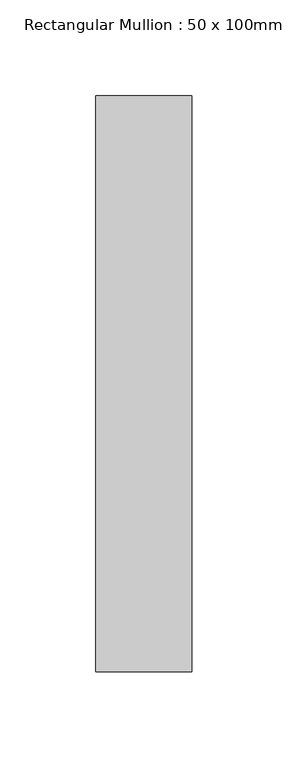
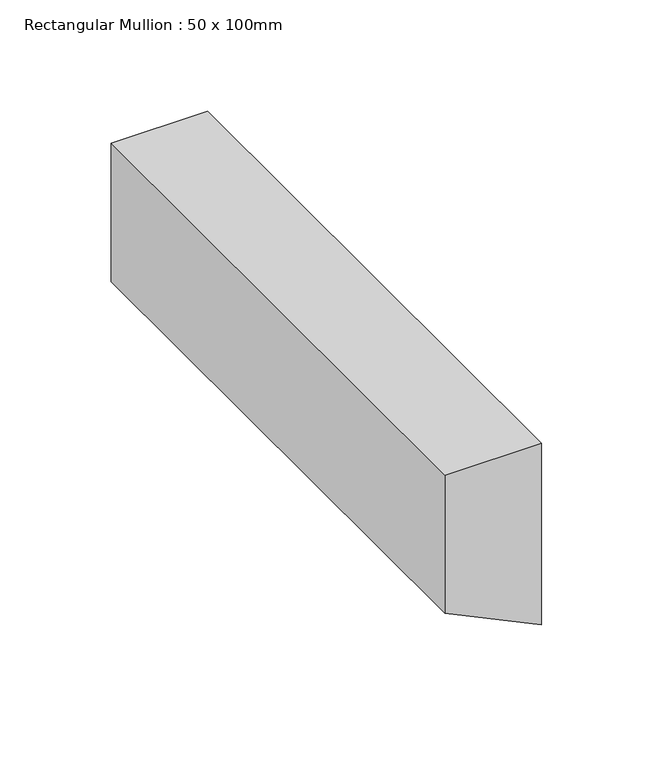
"""IFC4 building model written with IfcOpenShell, lengths in millimetres: member geometry, Rectangular Mullion : 50 x 100mm."""

from ifc_helpers import new_model, si_unit, frame, origin, place, context, project, spatial, polyline, outline, extrude, source, transform, mapped, element, save


def rectangular_mullion_50_x_100mm_c8e4288f(model_context):
    return source(origin(), model_context, "Body", "SweptSolid", [
        extrude(outline(polyline([(0.0, 0.0), (0.0, -50.0), (-75.8187991, -50.0), (-99.4949743, 0.0), (0.0, 0.0)])), frame((0.0, -125.0, 0.0), z_axis=(0.0, 1.0, 0.0), x_axis=(0.0, 0.0, 1.0)), (0.0, 0.0, 1.0), 300.0),
    ])


if __name__ == "__main__":
    model = new_model("IFC4")
    model_context = context("Model", 3, world=origin())
    ifc_project = project(units=[si_unit("LENGTHUNIT", "METRE", prefix="MILLI")], contexts=[model_context])
    site = spatial("IfcSite", under=ifc_project)
    building = spatial("IfcBuilding", under=site)
    placement = place(None, origin())
    rectangular_mullion_50_x_100mm_shape = rectangular_mullion_50_x_100mm_c8e4288f(model_context)
    element("IfcMember", 1, ObjectType="Rectangular Mullion : 50 x 100mm", at=placement, inside=building, context=model_context, shape_type="MappedRepresentation", body=[
        mapped(rectangular_mullion_50_x_100mm_shape, transform((0.0, 0.0, 0.0), x_axis=(1.0, 0.0, 0.0), y_axis=(0.0, 1.0, 0.0), z_axis=(0.0, 0.0, 1.0))),
    ])
    save(model, "model.ifc")
